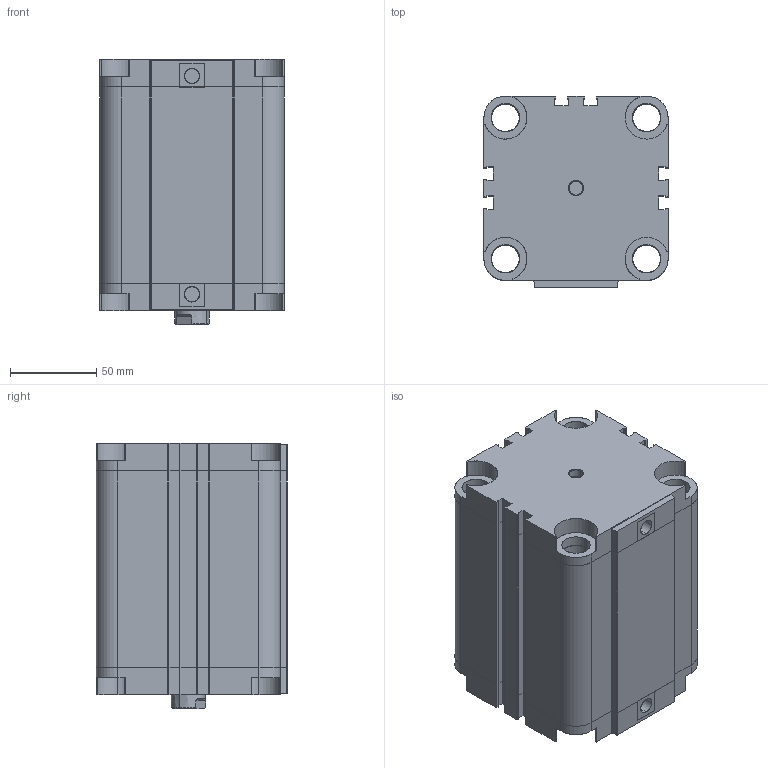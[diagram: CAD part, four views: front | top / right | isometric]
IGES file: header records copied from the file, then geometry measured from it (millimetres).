
Start section: SolidWorks IGES file using analytic representation for surfaces
Global section: file name: D:\ARICA 3D ÇÝZÝMLER\3D IGES\AEVU-S\AEVU-S 80\AEVU80X70-S-CYLINDER.IGS; native system: SolidWorks 2013; preprocessor: SolidWorks 2013; author: user; date: 150606.120705; units: millimetre
Bounding box: 107 x 111.2 x 154 mm (x, y, z)
Surface area: 243537.7 mm2 (no closed solid volume)
Topology: 0 solids, 0 shells, 610 faces, 10279 edges, 10279 vertices
Faces by surface type: revolution 330, bspline 280
